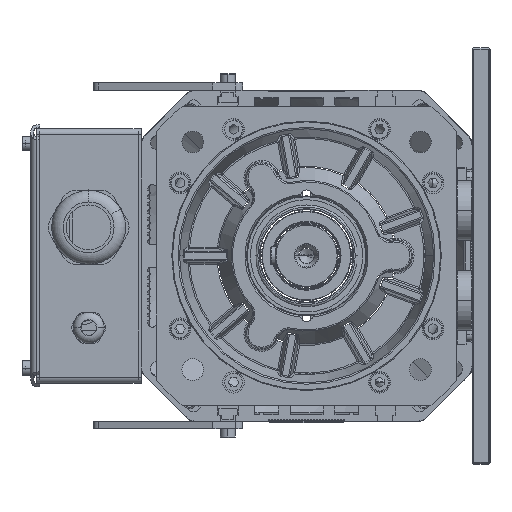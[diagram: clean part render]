
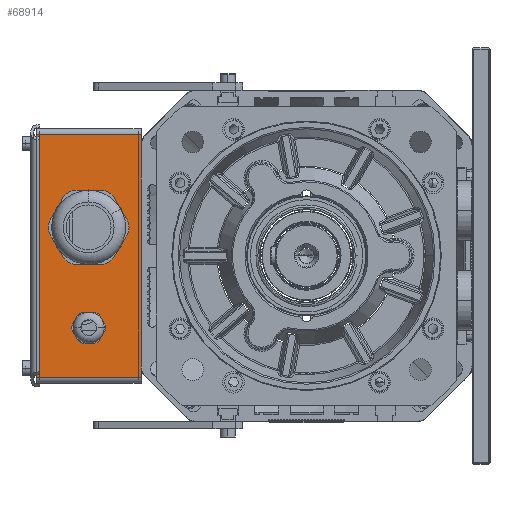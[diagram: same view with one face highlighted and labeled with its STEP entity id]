
A CAD part, left-side view. The second image highlights one B-rep face of the part: STEP entity #68914.
In plain terms, the highlighted planar face has unit normal (-1, 0, 0).
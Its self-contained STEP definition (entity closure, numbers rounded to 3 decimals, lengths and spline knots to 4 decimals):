
#66810=DIRECTION('',(0.,0.,1.));
#66811=VECTOR('',#66810,6.378);
#66812=CARTESIAN_POINT('',(11.7323,4.3504,
-3.189));
#66813=LINE('',#66812,#66811);
#67087=CARTESIAN_POINT('',(11.7323,5.7283,
-1.8898));
#67088=DIRECTION('',(-1.,0.,0.));
#67089=DIRECTION('',(0.,1.,0.));
#67090=AXIS2_PLACEMENT_3D('',#67087,#67088,#67089);
#67092=CARTESIAN_POINT('',(11.7323,5.7283,
-1.8898));
#67093=DIRECTION('',(-1.,0.,0.));
#67094=DIRECTION('',(0.,-1.,0.));
#67095=AXIS2_PLACEMENT_3D('',#67092,#67093,#67094);
#67097=CARTESIAN_POINT('',(11.7323,5.7283,
0.748));
#67098=DIRECTION('',(-1.,0.,0.));
#67099=DIRECTION('',(0.,1.,0.));
#67100=AXIS2_PLACEMENT_3D('',#67097,#67098,#67099);
#67102=CARTESIAN_POINT('',(11.7323,5.7283,
0.748));
#67103=DIRECTION('',(-1.,0.,0.));
#67104=DIRECTION('',(0.,-1.,0.));
#67105=AXIS2_PLACEMENT_3D('',#67102,#67103,#67104);
#67107=DIRECTION('',(0.,0.,1.));
#67108=VECTOR('',#67107,6.378);
#67109=CARTESIAN_POINT('',(11.7323,7.1063,
-3.189));
#67110=LINE('',#67109,#67108);
#67957=DIRECTION('',(0.,-1.,0.));
#67958=VECTOR('',#67957,2.7559);
#67959=CARTESIAN_POINT('',(11.7323,7.1063,
-3.189));
#67960=LINE('',#67959,#67958);
#67977=DIRECTION('',(0.,1.,0.));
#67978=VECTOR('',#67977,2.7559);
#67979=CARTESIAN_POINT('',(11.7323,4.3504,3.189));
#67980=LINE('',#67979,#67978);
#68297=CARTESIAN_POINT('',(11.7323,6.122,
-1.8898));
#68298=CARTESIAN_POINT('',(11.7323,5.3346,
-1.8898));
#68299=VERTEX_POINT('',#68297);
#68300=VERTEX_POINT('',#68298);
#68301=CARTESIAN_POINT('',(11.7323,6.7126,
0.748));
#68302=CARTESIAN_POINT('',(11.7323,4.7441,
0.748));
#68303=VERTEX_POINT('',#68301);
#68304=VERTEX_POINT('',#68302);
#68449=CARTESIAN_POINT('',(11.7323,4.3504,
-3.189));
#68451=VERTEX_POINT('',#68449);
#68462=CARTESIAN_POINT('',(11.7323,4.3504,3.189));
#68464=VERTEX_POINT('',#68462);
#68497=CARTESIAN_POINT('',(11.7323,7.1063,3.189));
#68499=VERTEX_POINT('',#68497);
#68510=CARTESIAN_POINT('',(11.7323,7.1063,
-3.189));
#68512=VERTEX_POINT('',#68510);
#68889=CARTESIAN_POINT('',(11.7323,4.3504,
-3.3465));
#68890=DIRECTION('',(-1.,0.,0.));
#68891=DIRECTION('',(0.,0.,1.));
#68892=AXIS2_PLACEMENT_3D('',#68889,#68890,#68891);
#68893=PLANE('',#68892);
#68895=ORIENTED_EDGE('',*,*,#68894,.F.);
#68896=ORIENTED_EDGE('',*,*,#68696,.F.);
#68898=ORIENTED_EDGE('',*,*,#68897,.F.);
#68899=ORIENTED_EDGE('',*,*,#68756,.T.);
#68900=EDGE_LOOP('',(#68895,#68896,#68898,#68899));
#68901=FACE_OUTER_BOUND('',#68900,.F.);
#68903=ORIENTED_EDGE('',*,*,#68902,.T.);
#68905=ORIENTED_EDGE('',*,*,#68904,.T.);
#68906=EDGE_LOOP('',(#68903,#68905));
#68907=FACE_BOUND('',#68906,.F.);
#68909=ORIENTED_EDGE('',*,*,#68908,.T.);
#68911=ORIENTED_EDGE('',*,*,#68910,.T.);
#68912=EDGE_LOOP('',(#68909,#68911));
#68913=FACE_BOUND('',#68912,.F.);
#68914=ADVANCED_FACE('',(#68901,#68907,#68913),#68893,.T.);
#67091=CIRCLE('',#67090,0.3937);
#67096=CIRCLE('',#67095,0.3937);
#67101=CIRCLE('',#67100,0.9843);
#67106=CIRCLE('',#67105,0.9843);
#68696=EDGE_CURVE('',#68451,#68464,#66813,.T.);
#68756=EDGE_CURVE('',#68512,#68499,#67110,.T.);
#68894=EDGE_CURVE('',#68464,#68499,#67980,.T.);
#68897=EDGE_CURVE('',#68512,#68451,#67960,.T.);
#68902=EDGE_CURVE('',#68303,#68304,#67101,.T.);
#68904=EDGE_CURVE('',#68304,#68303,#67106,.T.);
#68908=EDGE_CURVE('',#68299,#68300,#67091,.T.);
#68910=EDGE_CURVE('',#68300,#68299,#67096,.T.);
